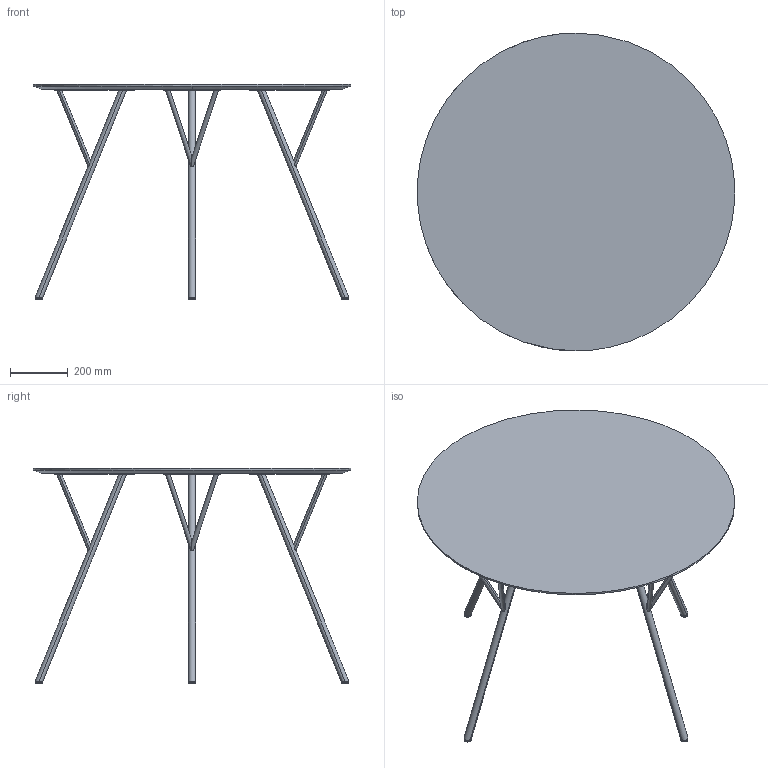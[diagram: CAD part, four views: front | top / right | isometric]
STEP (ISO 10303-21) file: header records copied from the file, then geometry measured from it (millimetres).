
FILE_DESCRIPTION(/* description */ (''),/* implementation_level */ '2;1');
FILE_NAME(/* name */ 'Trivi Table',/* time_stamp */ '2022-03-03T21:39:28+01:00',/* author */ (''),/* organization */ (''),/* preprocessor_version */ 'ST-DEVELOPER v16.5',/* originating_system */ 'Rhino 7.15',/* authorisation */ '');
FILE_SCHEMA (('CONFIG_CONTROL_DESIGN'));
Length unit declared in the file: millimetre
Products named in the file (1): Document
Bounding box: 1097.72 x 1100 x 746 mm (x, y, z)
Volume: 161651.7 mm3; surface area: 2415410.1 mm2
Topology: 4 solids, 23 shells, 110 faces, 281 edges, 192 vertices
Faces by surface type: cylinder 54, plane 34, bspline 22
Entity records: 4366 total; most frequent: CARTESIAN_POINT 2522, ORIENTED_EDGE 484, EDGE_CURVE 278, VERTEX_POINT 186, B_SPLINE_CURVE_WITH_KNOTS 151, ADVANCED_FACE 110, FACE_OUTER_BOUND 110, EDGE_LOOP 110
